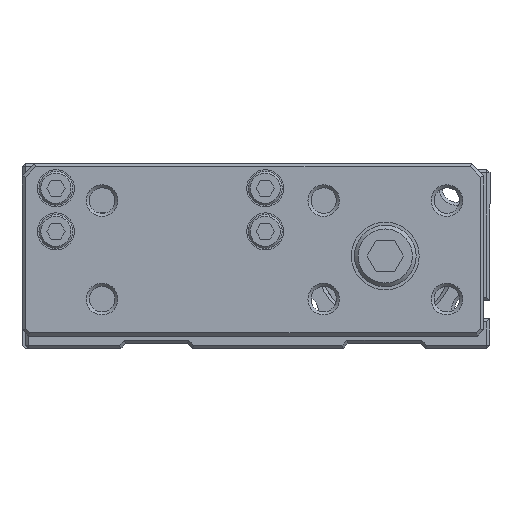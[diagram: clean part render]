
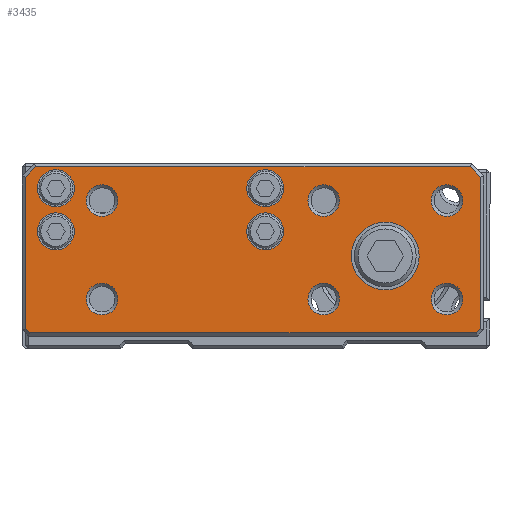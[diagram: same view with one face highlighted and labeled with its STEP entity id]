
A CAD part, front view. The second image highlights one B-rep face of the part: STEP entity #3435.
In plain terms, the highlighted planar face has unit normal (0, -1, 0).
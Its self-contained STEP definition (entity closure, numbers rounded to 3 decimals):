
#3239=CARTESIAN_POINT('',(-7.433,-13.8,9.0));
#3240=VERTEX_POINT('',#3239);
#3241=CARTESIAN_POINT('',(-10.,-13.8,9.0));
#3242=DIRECTION('',(0.0,-1.0,0.0));
#3243=DIRECTION('',(-1.0,0.0,0.0));
#3244=AXIS2_PLACEMENT_3D('',#3241,#3242,#3243);
#3245=CIRCLE('',#3244,2.567);
#3246=EDGE_CURVE('',#3240,#3240,#3245,.T.);
#3251=CARTESIAN_POINT('',(-59.0,-13.8,15.0));
#3252=DIRECTION('',(0.0,-1.0,0.0));
#3253=DIRECTION('',(0.0,0.0,-1.0));
#3254=AXIS2_PLACEMENT_3D('',#3251,#3252,#3253);
#3255=PLANE('',#3254);
#3256=CARTESIAN_POINT('',(15.5,-13.8,12.793));
#3257=VERTEX_POINT('',#3256);
#3258=CARTESIAN_POINT('',(15.5,-13.8,-11.793));
#3259=VERTEX_POINT('',#3258);
#3260=CARTESIAN_POINT('',(15.5,-13.8,12.793));
#3261=DIRECTION('',(0.0,0.0,-1.0));
#3262=VECTOR('',#3261,24.586);
#3263=LINE('',#3260,#3262);
#3264=EDGE_CURVE('',#3257,#3259,#3263,.T.);
#3265=ORIENTED_EDGE('',*,*,#3264,.F.);
#3266=CARTESIAN_POINT('',(13.793,-13.8,14.5));
#3267=VERTEX_POINT('',#3266);
#3268=CARTESIAN_POINT('',(13.793,-13.8,14.5));
#3269=DIRECTION('',(0.707,0.0,-0.707));
#3270=VECTOR('',#3269,2.414);
#3271=LINE('',#3268,#3270);
#3272=EDGE_CURVE('',#3267,#3257,#3271,.T.);
#3273=ORIENTED_EDGE('',*,*,#3272,.F.);
#3274=CARTESIAN_POINT('',(-56.793,-13.8,14.5));
#3275=VERTEX_POINT('',#3274);
#3276=CARTESIAN_POINT('',(-56.793,-13.8,14.5));
#3277=DIRECTION('',(1.0,0.0,0.0));
#3278=VECTOR('',#3277,70.586);
#3279=LINE('',#3276,#3278);
#3280=EDGE_CURVE('',#3275,#3267,#3279,.T.);
#3281=ORIENTED_EDGE('',*,*,#3280,.F.);
#3282=CARTESIAN_POINT('',(-58.5,-13.8,12.793));
#3283=VERTEX_POINT('',#3282);
#3284=CARTESIAN_POINT('',(-58.5,-13.8,12.793));
#3285=DIRECTION('',(0.707,0.0,0.707));
#3286=VECTOR('',#3285,2.414);
#3287=LINE('',#3284,#3286);
#3288=EDGE_CURVE('',#3283,#3275,#3287,.T.);
#3289=ORIENTED_EDGE('',*,*,#3288,.F.);
#3290=CARTESIAN_POINT('',(-58.5,-13.8,-11.793));
#3291=VERTEX_POINT('',#3290);
#3292=CARTESIAN_POINT('',(-58.5,-13.8,-11.793));
#3293=DIRECTION('',(0.0,0.0,1.0));
#3294=VECTOR('',#3293,24.586);
#3295=LINE('',#3292,#3294);
#3296=EDGE_CURVE('',#3291,#3283,#3295,.T.);
#3297=ORIENTED_EDGE('',*,*,#3296,.F.);
#3298=CARTESIAN_POINT('',(-57.793,-13.8,-12.5));
#3299=VERTEX_POINT('',#3298);
#3300=CARTESIAN_POINT('',(-57.793,-13.8,-12.5));
#3301=DIRECTION('',(-0.707,0.0,0.707));
#3302=VECTOR('',#3301,1.);
#3303=LINE('',#3300,#3302);
#3304=EDGE_CURVE('',#3299,#3291,#3303,.T.);
#3305=ORIENTED_EDGE('',*,*,#3304,.F.);
#3306=CARTESIAN_POINT('',(14.793,-13.8,-12.5));
#3307=VERTEX_POINT('',#3306);
#3308=CARTESIAN_POINT('',(14.793,-13.8,-12.5));
#3309=DIRECTION('',(-1.0,0.0,0.0));
#3310=VECTOR('',#3309,72.586);
#3311=LINE('',#3308,#3310);
#3312=EDGE_CURVE('',#3307,#3299,#3311,.T.);
#3313=ORIENTED_EDGE('',*,*,#3312,.F.);
#3314=CARTESIAN_POINT('',(15.5,-13.8,-11.793));
#3315=DIRECTION('',(-0.707,0.0,-0.707));
#3316=VECTOR('',#3315,1.);
#3317=LINE('',#3314,#3316);
#3318=EDGE_CURVE('',#3259,#3307,#3317,.T.);
#3319=ORIENTED_EDGE('',*,*,#3318,.F.);
#3320=EDGE_LOOP('',(#3265,#3273,#3281,#3289,#3297,#3305,#3313,#3319));
#3321=FACE_OUTER_BOUND('',#3320,.T.);
#3322=CARTESIAN_POINT('',(-7.433,-13.8,-7.));
#3323=VERTEX_POINT('',#3322);
#3324=CARTESIAN_POINT('',(-10.,-13.8,-7.));
#3325=DIRECTION('',(0.0,-1.0,0.0));
#3326=DIRECTION('',(-1.0,0.0,0.0));
#3327=AXIS2_PLACEMENT_3D('',#3324,#3325,#3326);
#3328=CIRCLE('',#3327,2.567);
#3329=EDGE_CURVE('',#3323,#3323,#3328,.T.);
#3330=ORIENTED_EDGE('',*,*,#3329,.F.);
#3331=EDGE_LOOP('',(#3330));
#3332=FACE_BOUND('',#3331,.T.);
#3333=CARTESIAN_POINT('',(12.567,-13.8,-7.));
#3334=VERTEX_POINT('',#3333);
#3335=CARTESIAN_POINT('',(10.0,-13.8,-7.));
#3336=DIRECTION('',(0.0,-1.0,0.0));
#3337=DIRECTION('',(-1.0,0.0,0.0));
#3338=AXIS2_PLACEMENT_3D('',#3335,#3336,#3337);
#3339=CIRCLE('',#3338,2.567);
#3340=EDGE_CURVE('',#3334,#3334,#3339,.T.);
#3341=ORIENTED_EDGE('',*,*,#3340,.F.);
#3342=EDGE_LOOP('',(#3341));
#3343=FACE_BOUND('',#3342,.T.);
#3344=CARTESIAN_POINT('',(12.567,-13.8,9.));
#3345=VERTEX_POINT('',#3344);
#3346=CARTESIAN_POINT('',(10.0,-13.8,9.));
#3347=DIRECTION('',(0.0,-1.0,0.0));
#3348=DIRECTION('',(-1.0,0.0,0.0));
#3349=AXIS2_PLACEMENT_3D('',#3346,#3347,#3348);
#3350=CIRCLE('',#3349,2.567);
#3351=EDGE_CURVE('',#3345,#3345,#3350,.T.);
#3352=ORIENTED_EDGE('',*,*,#3351,.F.);
#3353=EDGE_LOOP('',(#3352));
#3354=FACE_BOUND('',#3353,.T.);
#3355=CARTESIAN_POINT('',(5.5,-13.8,0.0));
#3356=VERTEX_POINT('',#3355);
#3357=CARTESIAN_POINT('',(0.,-13.8,0.0));
#3358=DIRECTION('',(0.0,1.0,0.0));
#3359=DIRECTION('',(1.0,0.0,0.0));
#3360=AXIS2_PLACEMENT_3D('',#3357,#3358,#3359);
#3361=CIRCLE('',#3360,5.5);
#3362=EDGE_CURVE('',#3356,#3356,#3361,.T.);
#3363=ORIENTED_EDGE('',*,*,#3362,.T.);
#3364=EDGE_LOOP('',(#3363));
#3365=FACE_BOUND('',#3364,.T.);
#3366=CARTESIAN_POINT('',(-50.5,-13.8,11.));
#3367=VERTEX_POINT('',#3366);
#3368=CARTESIAN_POINT('',(-53.5,-13.8,11.));
#3369=DIRECTION('',(0.0,1.0,0.0));
#3370=DIRECTION('',(1.0,0.0,0.0));
#3371=AXIS2_PLACEMENT_3D('',#3368,#3369,#3370);
#3372=CIRCLE('',#3371,3.);
#3373=EDGE_CURVE('',#3367,#3367,#3372,.T.);
#3374=ORIENTED_EDGE('',*,*,#3373,.T.);
#3375=EDGE_LOOP('',(#3374));
#3376=FACE_BOUND('',#3375,.T.);
#3377=CARTESIAN_POINT('',(-50.5,-13.8,4.));
#3378=VERTEX_POINT('',#3377);
#3379=CARTESIAN_POINT('',(-53.5,-13.8,4.));
#3380=DIRECTION('',(0.0,1.0,0.0));
#3381=DIRECTION('',(1.0,0.0,0.0));
#3382=AXIS2_PLACEMENT_3D('',#3379,#3380,#3381);
#3383=CIRCLE('',#3382,3.);
#3384=EDGE_CURVE('',#3378,#3378,#3383,.T.);
#3385=ORIENTED_EDGE('',*,*,#3384,.T.);
#3386=EDGE_LOOP('',(#3385));
#3387=FACE_BOUND('',#3386,.T.);
#3388=CARTESIAN_POINT('',(-16.5,-13.8,11.));
#3389=VERTEX_POINT('',#3388);
#3390=CARTESIAN_POINT('',(-19.5,-13.8,11.));
#3391=DIRECTION('',(0.0,1.0,0.0));
#3392=DIRECTION('',(1.0,0.0,0.0));
#3393=AXIS2_PLACEMENT_3D('',#3390,#3391,#3392);
#3394=CIRCLE('',#3393,3.);
#3395=EDGE_CURVE('',#3389,#3389,#3394,.T.);
#3396=ORIENTED_EDGE('',*,*,#3395,.T.);
#3397=EDGE_LOOP('',(#3396));
#3398=FACE_BOUND('',#3397,.T.);
#3399=CARTESIAN_POINT('',(-16.5,-13.8,4.));
#3400=VERTEX_POINT('',#3399);
#3401=CARTESIAN_POINT('',(-19.5,-13.8,4.));
#3402=DIRECTION('',(0.0,1.0,0.0));
#3403=DIRECTION('',(1.0,0.0,0.0));
#3404=AXIS2_PLACEMENT_3D('',#3401,#3402,#3403);
#3405=CIRCLE('',#3404,3.);
#3406=EDGE_CURVE('',#3400,#3400,#3405,.T.);
#3407=ORIENTED_EDGE('',*,*,#3406,.T.);
#3408=EDGE_LOOP('',(#3407));
#3409=FACE_BOUND('',#3408,.T.);
#3410=CARTESIAN_POINT('',(-43.433,-13.8,-7.));
#3411=VERTEX_POINT('',#3410);
#3412=CARTESIAN_POINT('',(-46.0,-13.8,-7.));
#3413=DIRECTION('',(0.0,-1.0,0.0));
#3414=DIRECTION('',(-1.0,0.0,0.0));
#3415=AXIS2_PLACEMENT_3D('',#3412,#3413,#3414);
#3416=CIRCLE('',#3415,2.567);
#3417=EDGE_CURVE('',#3411,#3411,#3416,.T.);
#3418=ORIENTED_EDGE('',*,*,#3417,.F.);
#3419=EDGE_LOOP('',(#3418));
#3420=FACE_BOUND('',#3419,.T.);
#3421=CARTESIAN_POINT('',(-43.433,-13.8,9.));
#3422=VERTEX_POINT('',#3421);
#3423=CARTESIAN_POINT('',(-46.,-13.8,9.));
#3424=DIRECTION('',(0.0,-1.0,0.0));
#3425=DIRECTION('',(-1.0,0.0,0.0));
#3426=AXIS2_PLACEMENT_3D('',#3423,#3424,#3425);
#3427=CIRCLE('',#3426,2.567);
#3428=EDGE_CURVE('',#3422,#3422,#3427,.T.);
#3429=ORIENTED_EDGE('',*,*,#3428,.F.);
#3430=EDGE_LOOP('',(#3429));
#3431=FACE_BOUND('',#3430,.T.);
#3432=ORIENTED_EDGE('',*,*,#3246,.F.);
#3433=EDGE_LOOP('',(#3432));
#3434=FACE_BOUND('',#3433,.T.);
#3435=ADVANCED_FACE('',(#3321,#3332,#3343,#3354,#3365,#3376,#3387,#3398,#3409,#3420,#3431,#3434),#3255,.T.);
